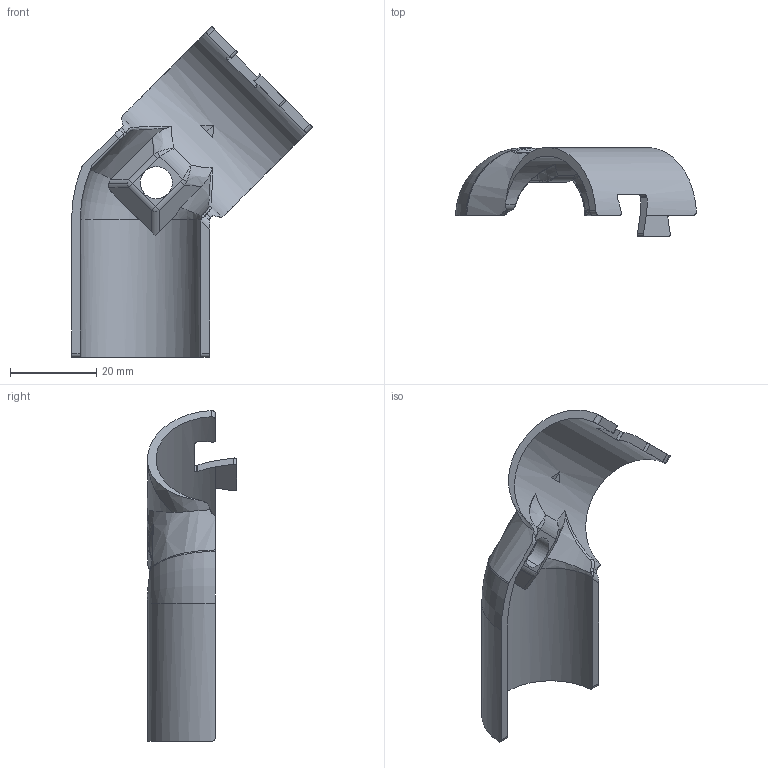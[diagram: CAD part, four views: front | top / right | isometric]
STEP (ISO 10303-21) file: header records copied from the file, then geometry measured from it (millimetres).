
FILE_DESCRIPTION (( 'STEP AP203' ), '1' );
FILE_NAME ('015.100.013A.STEP', '2016-10-24T07:35:11', ( '' ), ( '' ), 'SwSTEP 2.0', 'SolidWorks 2016', '' );
FILE_SCHEMA (( 'CONFIG_CONTROL_DESIGN' ));
Length unit declared in the file: millimetre
Products named in the file (1): 015.100.013A
Bounding box: 55.83 x 20.65 x 76.69 mm (x, y, z)
Volume: 7521.1 mm3; surface area: 7614.6 mm2
Topology: 1 solids, 1 shells, 114 faces, 304 edges, 188 vertices
Faces by surface type: cylinder 42, bspline 35, plane 30, torus 4, sphere 3
Entity records: 5507 total; most frequent: CARTESIAN_POINT 3002, ORIENTED_EDGE 600, DIRECTION 386, EDGE_CURVE 300, VERTEX_POINT 188, AXIS2_PLACEMENT_3D 144, B_SPLINE_CURVE_WITH_KNOTS 119, EDGE_LOOP 116
